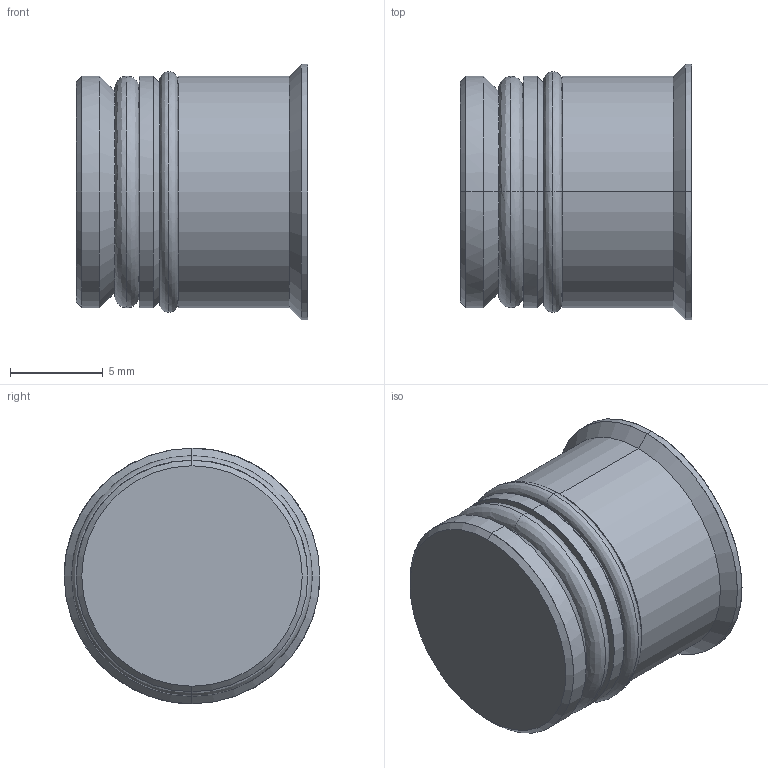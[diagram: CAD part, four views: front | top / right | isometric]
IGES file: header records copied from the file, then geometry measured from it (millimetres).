
Start section: START RECORD GO HERE.
Global section: file name: TR-12.igs; native system: DASSAULT SYSTEMES CATIA V5 R20 - www.3ds.com; preprocessor: CATIA Version 5 Release 20 ; author: Utente; organization: NB04-ASUS; date: 20210223.202152; units: millimetre
Bounding box: 12.5 x 13.8 x 13.8 mm (x, y, z)
Surface area: 1040.2 mm2 (no closed solid volume)
Topology: 0 solids, 0 shells, 47 faces, 264 edges, 264 vertices
Faces by surface type: revolution 28, plane 19
